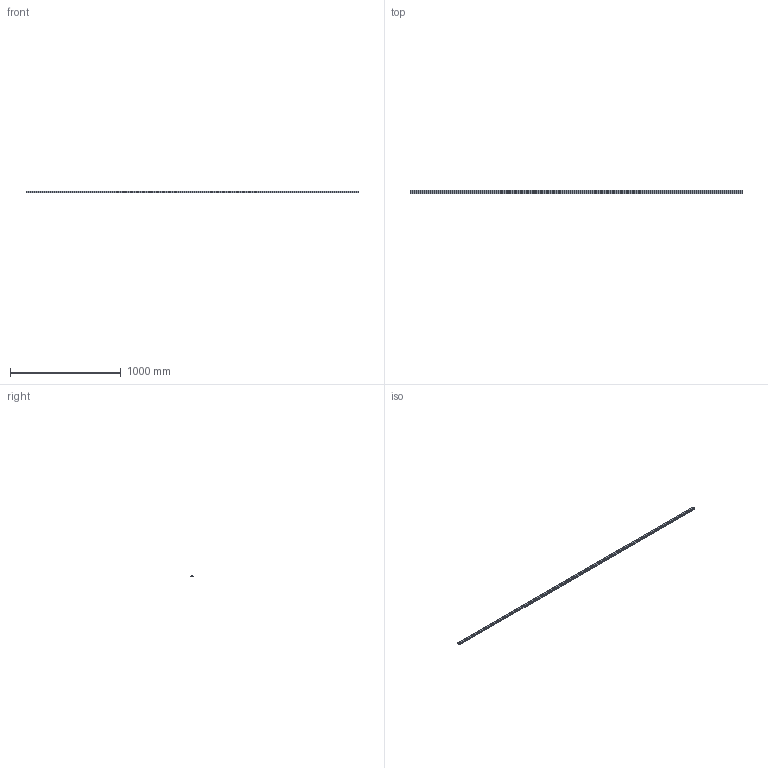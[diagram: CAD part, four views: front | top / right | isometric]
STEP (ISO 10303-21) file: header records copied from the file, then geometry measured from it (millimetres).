
FILE_DESCRIPTION (( 'STEP AP214' ), '1' );
FILE_NAME ('FABER - FL5S U30.step', '2017-04-06T07:46:16', ( '' ), ( '' ), 'SwSTEP 2.0', 'SolidWorks 2016', '' );
FILE_SCHEMA (( 'AUTOMOTIVE_DESIGN' ));
Length unit declared in the file: millimetre
Products named in the file (1): FABER - FL5S U30
Bounding box: 3000 x 30 x 12 mm (x, y, z)
Volume: 758250 mm3; surface area: 286748.1 mm2
Topology: 1 solids, 1 shells, 16 faces, 42 edges, 28 vertices
Faces by surface type: plane 16
Entity records: 520 total; most frequent: CARTESIAN_POINT 87, ORIENTED_EDGE 84, DIRECTION 76, VECTOR 42, EDGE_CURVE 42, LINE 42, VERTEX_POINT 28, AXIS2_PLACEMENT_3D 17
